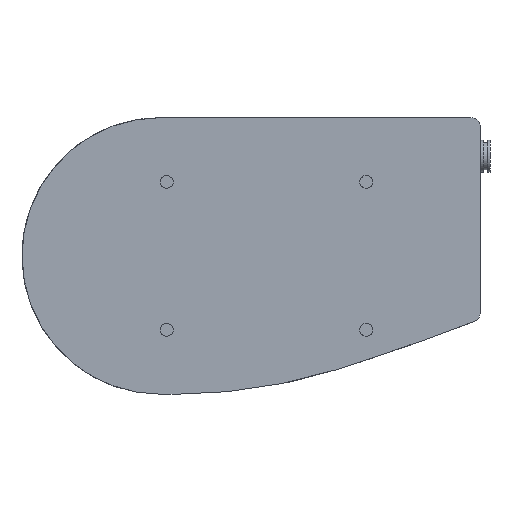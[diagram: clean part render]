
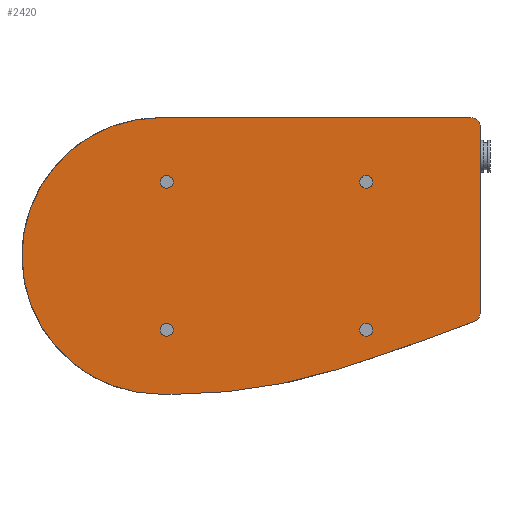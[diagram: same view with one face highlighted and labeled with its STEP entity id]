
A CAD part, front view. The second image highlights one B-rep face of the part: STEP entity #2420.
In plain terms, the highlighted planar face has unit normal (0, -1, 0).
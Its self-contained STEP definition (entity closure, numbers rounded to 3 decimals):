
#37 = ORIENTED_EDGE ( 'NONE', *, *, #4936, .F. ) ;
#41 = DIRECTION ( 'NONE',  ( 0., -1., 0. ) ) ;
#48 = AXIS2_PLACEMENT_3D ( 'NONE', #4832, #1172, #2779 ) ;
#73 = VERTEX_POINT ( 'NONE', #1199 ) ;
#229 = VERTEX_POINT ( 'NONE', #2683 ) ;
#234 = CIRCLE ( 'NONE', #3482, 172.045 ) ;
#238 = VERTEX_POINT ( 'NONE', #1552 ) ;
#245 = CARTESIAN_POINT ( 'NONE',  ( 2., 0., 23. ) ) ;
#281 = EDGE_CURVE ( 'NONE', #2434, #3410, #1745, .T. ) ;
#291 = CARTESIAN_POINT ( 'NONE',  ( 2., 0., 25. ) ) ;
#296 = DIRECTION ( 'NONE',  ( 1., 0., 0. ) ) ;
#319 = ORIENTED_EDGE ( 'NONE', *, *, #3084, .F. ) ;
#320 = FACE_BOUND ( 'NONE', #1837, .T. ) ;
#343 = DIRECTION ( 'NONE',  ( 0., 0., -1. ) ) ;
#358 = DIRECTION ( 'NONE',  ( 0., -1., 0. ) ) ;
#394 = CIRCLE ( 'NONE', #915, 2. ) ;
#418 = ORIENTED_EDGE ( 'NONE', *, *, #569, .F. ) ;
#449 = LINE ( 'NONE', #4582, #5267 ) ;
#482 = DIRECTION ( 'NONE',  ( 0., 0., -1. ) ) ;
#502 = DIRECTION ( 'NONE',  ( 0., 0., 1. ) ) ;
#508 = EDGE_CURVE ( 'NONE', #599, #73, #1155, .T. ) ;
#515 = VERTEX_POINT ( 'NONE', #765 ) ;
#569 = EDGE_CURVE ( 'NONE', #2607, #1362, #2785, .T. ) ;
#587 = DIRECTION ( 'NONE',  ( 0., 0., 1. ) ) ;
#599 = VERTEX_POINT ( 'NONE', #3638 ) ;
#607 = EDGE_LOOP ( 'NONE', ( #1028, #3873 ) ) ;
#667 = CARTESIAN_POINT ( 'NONE',  ( 2., 0., -21. ) ) ;
#678 = CARTESIAN_POINT ( 'NONE',  ( 3.981, 0., 128.998 ) ) ;
#721 = LINE ( 'NONE', #5124, #3921 ) ;
#736 = AXIS2_PLACEMENT_3D ( 'NONE', #3635, #4359, #5265 ) ;
#741 = AXIS2_PLACEMENT_3D ( 'NONE', #245, #1478, #1928 ) ;
#765 = CARTESIAN_POINT ( 'NONE',  ( 3.981, 0., -43.046 ) ) ;
#797 = CARTESIAN_POINT ( 'NONE',  ( 2., 0., 23. ) ) ;
#829 = ORIENTED_EDGE ( 'NONE', *, *, #3407, .F. ) ;
#835 = CIRCLE ( 'NONE', #2368, 3. ) ;
#907 = CIRCLE ( 'NONE', #2710, 2. ) ;
#908 = CARTESIAN_POINT ( 'NONE',  ( 96.5, 0., -17.535 ) ) ;
#915 = AXIS2_PLACEMENT_3D ( 'NONE', #1896, #4380, #4752 ) ;
#967 = CARTESIAN_POINT ( 'NONE',  ( 96.5, 0., 40. ) ) ;
#988 = ORIENTED_EDGE ( 'NONE', *, *, #4252, .F. ) ;
#1028 = ORIENTED_EDGE ( 'NONE', *, *, #5196, .F. ) ;
#1049 = CARTESIAN_POINT ( 'NONE',  ( 0., 0., -43. ) ) ;
#1098 = DIRECTION ( 'NONE',  ( 0., -1., 0. ) ) ;
#1155 = CIRCLE ( 'NONE', #3385, 709.605 ) ;
#1170 = AXIS2_PLACEMENT_3D ( 'NONE', #908, #1264, #502 ) ;
#1172 = DIRECTION ( 'NONE',  ( 0., -1., 0. ) ) ;
#1196 = EDGE_CURVE ( 'NONE', #3410, #2434, #2699, .T. ) ;
#1198 = DIRECTION ( 'NONE',  ( 0., 0., 1. ) ) ;
#1199 = CARTESIAN_POINT ( 'NONE',  ( 54.309, 0., -35.52 ) ) ;
#1231 = VERTEX_POINT ( 'NONE', #667 ) ;
#1264 = DIRECTION ( 'NONE',  ( 0., 1., 0. ) ) ;
#1340 = CARTESIAN_POINT ( 'NONE',  ( 64., 0., 21. ) ) ;
#1362 = VERTEX_POINT ( 'NONE', #4902 ) ;
#1478 = DIRECTION ( 'NONE',  ( 0., -1., 0. ) ) ;
#1551 = VERTEX_POINT ( 'NONE', #2596 ) ;
#1552 = CARTESIAN_POINT ( 'NONE',  ( 0., 0., 43. ) ) ;
#1554 = FACE_BOUND ( 'NONE', #2867, .T. ) ;
#1678 = DIRECTION ( 'NONE',  ( 0., 0., -1. ) ) ;
#1703 = ORIENTED_EDGE ( 'NONE', *, *, #2092, .F. ) ;
#1732 = ORIENTED_EDGE ( 'NONE', *, *, #4864, .T. ) ;
#1745 = CIRCLE ( 'NONE', #2955, 2. ) ;
#1768 = CARTESIAN_POINT ( 'NONE',  ( 64., 0., -21. ) ) ;
#1837 = EDGE_LOOP ( 'NONE', ( #2075, #319 ) ) ;
#1896 = CARTESIAN_POINT ( 'NONE',  ( 2., 0., -23. ) ) ;
#1928 = DIRECTION ( 'NONE',  ( 0., 0., -1. ) ) ;
#2047 = CARTESIAN_POINT ( 'NONE',  ( 2., 0., -25. ) ) ;
#2075 = ORIENTED_EDGE ( 'NONE', *, *, #3984, .F. ) ;
#2092 = EDGE_CURVE ( 'NONE', #1551, #3772, #449, .T. ) ;
#2277 = CARTESIAN_POINT ( 'NONE',  ( 64., 0., -23. ) ) ;
#2368 = AXIS2_PLACEMENT_3D ( 'NONE', #967, #3791, #587 ) ;
#2377 = ORIENTED_EDGE ( 'NONE', *, *, #281, .F. ) ;
#2401 = EDGE_CURVE ( 'NONE', #3274, #229, #5097, .T. ) ;
#2420 = ADVANCED_FACE ( 'NONE', ( #3599, #3999, #320, #1554, #3194 ), #4816, .F. ) ;
#2434 = VERTEX_POINT ( 'NONE', #1768 ) ;
#2435 = DIRECTION ( 'NONE',  ( 0., -1., 0. ) ) ;
#2596 = CARTESIAN_POINT ( 'NONE',  ( 99.5, 0., 40. ) ) ;
#2607 = VERTEX_POINT ( 'NONE', #1340 ) ;
#2664 = CARTESIAN_POINT ( 'NONE',  ( 64., 0., -23. ) ) ;
#2683 = CARTESIAN_POINT ( 'NONE',  ( 2., 0., 21. ) ) ;
#2699 = CIRCLE ( 'NONE', #5264, 2. ) ;
#2710 = AXIS2_PLACEMENT_3D ( 'NONE', #3352, #41, #3779 ) ;
#2779 = DIRECTION ( 'NONE',  ( 0., 0., -1. ) ) ;
#2781 = EDGE_LOOP ( 'NONE', ( #1703, #1732, #37, #4665, #829, #3143, #5218, #3251 ) ) ;
#2785 = CIRCLE ( 'NONE', #3216, 2. ) ;
#2849 = DIRECTION ( 'NONE',  ( 0., 1., 0. ) ) ;
#2867 = EDGE_LOOP ( 'NONE', ( #418, #988 ) ) ;
#2897 = CARTESIAN_POINT ( 'NONE',  ( 64., 0., 23. ) ) ;
#2955 = AXIS2_PLACEMENT_3D ( 'NONE', #2277, #1098, #343 ) ;
#3079 = EDGE_CURVE ( 'NONE', #3772, #599, #3150, .T. ) ;
#3084 = EDGE_CURVE ( 'NONE', #1231, #4409, #394, .T. ) ;
#3143 = ORIENTED_EDGE ( 'NONE', *, *, #4184, .F. ) ;
#3150 = CIRCLE ( 'NONE', #4256, 3. ) ;
#3171 = DIRECTION ( 'NONE',  ( 0., 0., -1. ) ) ;
#3194 = FACE_OUTER_BOUND ( 'NONE', #2781, .T. ) ;
#3214 = CARTESIAN_POINT ( 'NONE',  ( -158.931, 0., 641.287 ) ) ;
#3216 = AXIS2_PLACEMENT_3D ( 'NONE', #2897, #358, #1678 ) ;
#3251 = ORIENTED_EDGE ( 'NONE', *, *, #3079, .F. ) ;
#3274 = VERTEX_POINT ( 'NONE', #291 ) ;
#3295 = DIRECTION ( 'NONE',  ( 0., 1., 0. ) ) ;
#3326 = VERTEX_POINT ( 'NONE', #3896 ) ;
#3352 = CARTESIAN_POINT ( 'NONE',  ( 2., 0., -23. ) ) ;
#3385 = AXIS2_PLACEMENT_3D ( 'NONE', #3214, #3295, #1198 ) ;
#3407 = EDGE_CURVE ( 'NONE', #515, #4996, #234, .T. ) ;
#3410 = VERTEX_POINT ( 'NONE', #4498 ) ;
#3482 = AXIS2_PLACEMENT_3D ( 'NONE', #4817, #2849, #5281 ) ;
#3599 = FACE_BOUND ( 'NONE', #4843, .T. ) ;
#3634 = DIRECTION ( 'NONE',  ( 0., 0., 1. ) ) ;
#3635 = CARTESIAN_POINT ( 'NONE',  ( 0., 0., 0. ) ) ;
#3638 = CARTESIAN_POINT ( 'NONE',  ( 97.584, 0., -20.332 ) ) ;
#3772 = VERTEX_POINT ( 'NONE', #5216 ) ;
#3779 = DIRECTION ( 'NONE',  ( 0., 0., -1. ) ) ;
#3791 = DIRECTION ( 'NONE',  ( 0., -1., 0. ) ) ;
#3825 = CIRCLE ( 'NONE', #5096, 172.045 ) ;
#3873 = ORIENTED_EDGE ( 'NONE', *, *, #2401, .F. ) ;
#3896 = CARTESIAN_POINT ( 'NONE',  ( 96.5, 0., 43. ) ) ;
#3911 = AXIS2_PLACEMENT_3D ( 'NONE', #797, #2435, #3171 ) ;
#3915 = CIRCLE ( 'NONE', #736, 43. ) ;
#3921 = VECTOR ( 'NONE', #296, 1000. ) ;
#3984 = EDGE_CURVE ( 'NONE', #4409, #1231, #907, .T. ) ;
#3999 = FACE_BOUND ( 'NONE', #607, .T. ) ;
#4184 = EDGE_CURVE ( 'NONE', #73, #515, #3825, .T. ) ;
#4252 = EDGE_CURVE ( 'NONE', #1362, #2607, #4414, .T. ) ;
#4256 = AXIS2_PLACEMENT_3D ( 'NONE', #4456, #4358, #3634 ) ;
#4301 = EDGE_CURVE ( 'NONE', #4996, #238, #3915, .T. ) ;
#4320 = DIRECTION ( 'NONE',  ( 0., -1., 0. ) ) ;
#4358 = DIRECTION ( 'NONE',  ( 0., 1., 0. ) ) ;
#4359 = DIRECTION ( 'NONE',  ( 0., 1., 0. ) ) ;
#4362 = ORIENTED_EDGE ( 'NONE', *, *, #1196, .F. ) ;
#4370 = DIRECTION ( 'NONE',  ( 0., 0., -1. ) ) ;
#4380 = DIRECTION ( 'NONE',  ( 0., -1., 0. ) ) ;
#4409 = VERTEX_POINT ( 'NONE', #2047 ) ;
#4414 = CIRCLE ( 'NONE', #48, 2. ) ;
#4456 = CARTESIAN_POINT ( 'NONE',  ( 96.5, 0., -17.535 ) ) ;
#4498 = CARTESIAN_POINT ( 'NONE',  ( 64., 0., -25. ) ) ;
#4582 = CARTESIAN_POINT ( 'NONE',  ( 99.5, 0., -17.535 ) ) ;
#4665 = ORIENTED_EDGE ( 'NONE', *, *, #4301, .F. ) ;
#4752 = DIRECTION ( 'NONE',  ( 0., 0., -1. ) ) ;
#4782 = DIRECTION ( 'NONE',  ( 0., 0., 1. ) ) ;
#4816 = PLANE ( 'NONE',  #1170 ) ;
#4817 = CARTESIAN_POINT ( 'NONE',  ( 3.981, 0., 128.998 ) ) ;
#4832 = CARTESIAN_POINT ( 'NONE',  ( 64., 0., 23. ) ) ;
#4843 = EDGE_LOOP ( 'NONE', ( #4362, #2377 ) ) ;
#4864 = EDGE_CURVE ( 'NONE', #1551, #3326, #835, .T. ) ;
#4902 = CARTESIAN_POINT ( 'NONE',  ( 64., 0., 25. ) ) ;
#4936 = EDGE_CURVE ( 'NONE', #238, #3326, #721, .T. ) ;
#4996 = VERTEX_POINT ( 'NONE', #1049 ) ;
#5096 = AXIS2_PLACEMENT_3D ( 'NONE', #678, #5181, #4782 ) ;
#5097 = CIRCLE ( 'NONE', #3911, 2. ) ;
#5124 = CARTESIAN_POINT ( 'NONE',  ( 0., 0., 43. ) ) ;
#5181 = DIRECTION ( 'NONE',  ( 0., 1., 0. ) ) ;
#5196 = EDGE_CURVE ( 'NONE', #229, #3274, #5282, .T. ) ;
#5216 = CARTESIAN_POINT ( 'NONE',  ( 99.5, 0., -17.535 ) ) ;
#5218 = ORIENTED_EDGE ( 'NONE', *, *, #508, .F. ) ;
#5264 = AXIS2_PLACEMENT_3D ( 'NONE', #2664, #4320, #4370 ) ;
#5265 = DIRECTION ( 'NONE',  ( 0., 0., 1. ) ) ;
#5267 = VECTOR ( 'NONE', #482, 1000. ) ;
#5281 = DIRECTION ( 'NONE',  ( 0., 0., 1. ) ) ;
#5282 = CIRCLE ( 'NONE', #741, 2. ) ;
